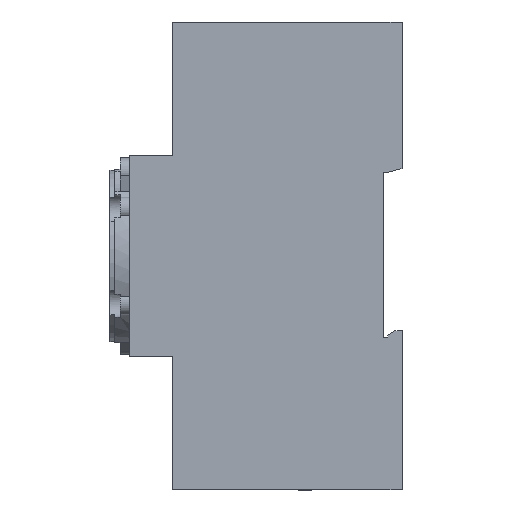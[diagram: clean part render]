
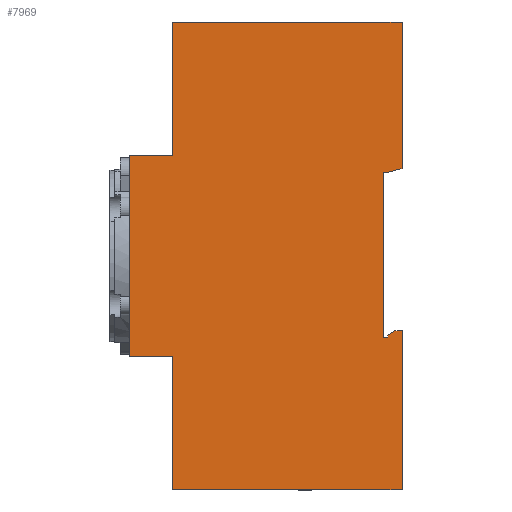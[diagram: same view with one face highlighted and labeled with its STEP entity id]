
A CAD part, left-side view. The second image highlights one B-rep face of the part: STEP entity #7969.
In plain terms, the highlighted planar face has unit normal (-1, 0, 0).
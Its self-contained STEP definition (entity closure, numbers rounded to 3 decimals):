
#82 = VECTOR ( 'NONE', #11902, 1000. ) ;
#211 = LINE ( 'NONE', #6879, #7646 ) ;
#352 = EDGE_CURVE ( 'NONE', #1647, #10855, #2578, .T. ) ;
#417 = EDGE_LOOP ( 'NONE', ( #5931, #10441, #3921, #9330, #1421, #2902, #3794, #11557, #8749, #11984, #8593, #6229, #9772, #4615, #8253, #2079, #11896 ) ) ;
#793 = VECTOR ( 'NONE', #5750, 1000. ) ;
#1166 = VECTOR ( 'NONE', #10931, 1000. ) ;
#1189 = EDGE_CURVE ( 'NONE', #8289, #1497, #12209, .T. ) ;
#1244 = EDGE_CURVE ( 'NONE', #2241, #6282, #3569, .T. ) ;
#1292 = CARTESIAN_POINT ( 'NONE',  ( -39., -25.8, 17.8 ) ) ;
#1374 = CARTESIAN_POINT ( 'NONE',  ( -39., 19.9, 21.5 ) ) ;
#1421 = ORIENTED_EDGE ( 'NONE', *, *, #1244, .T. ) ;
#1478 = CARTESIAN_POINT ( 'NONE',  ( -39., -29.1, 50. ) ) ;
#1497 = VERTEX_POINT ( 'NONE', #7018 ) ;
#1647 = VERTEX_POINT ( 'NONE', #6030 ) ;
#1762 = LINE ( 'NONE', #2618, #9596 ) ;
#2044 = EDGE_CURVE ( 'NONE', #11857, #2210, #1762, .T. ) ;
#2079 = ORIENTED_EDGE ( 'NONE', *, *, #4532, .T. ) ;
#2210 = VERTEX_POINT ( 'NONE', #1478 ) ;
#2241 = VERTEX_POINT ( 'NONE', #1374 ) ;
#2299 = VERTEX_POINT ( 'NONE', #1292 ) ;
#2471 = VECTOR ( 'NONE', #4699, 1000. ) ;
#2494 = VERTEX_POINT ( 'NONE', #10404 ) ;
#2542 = DIRECTION ( 'NONE',  ( 0., -1., 0. ) ) ;
#2578 = LINE ( 'NONE', #11757, #7947 ) ;
#2618 = CARTESIAN_POINT ( 'NONE',  ( -39., -29.1, 50. ) ) ;
#2730 = DIRECTION ( 'NONE',  ( 0., 0., 1. ) ) ;
#2741 = EDGE_CURVE ( 'NONE', #2299, #3095, #5648, .T. ) ;
#2831 = VECTOR ( 'NONE', #11268, 1000. ) ;
#2886 = EDGE_CURVE ( 'NONE', #3330, #3799, #8701, .T. ) ;
#2888 = EDGE_CURVE ( 'NONE', #8389, #2241, #6054, .T. ) ;
#2902 = ORIENTED_EDGE ( 'NONE', *, *, #9347, .T. ) ;
#2943 = EDGE_CURVE ( 'NONE', #7696, #8289, #4960, .T. ) ;
#2944 = VECTOR ( 'NONE', #4460, 1000. ) ;
#3066 = DIRECTION ( 'NONE',  ( 0., 1., 0. ) ) ;
#3095 = VERTEX_POINT ( 'NONE', #9952 ) ;
#3193 = CARTESIAN_POINT ( 'NONE',  ( -39., 0., 17.8 ) ) ;
#3239 = EDGE_CURVE ( 'NONE', #1497, #2494, #8896, .T. ) ;
#3330 = VERTEX_POINT ( 'NONE', #8420 ) ;
#3343 = VECTOR ( 'NONE', #9448, 1000. ) ;
#3569 = LINE ( 'NONE', #9083, #9374 ) ;
#3746 = EDGE_CURVE ( 'NONE', #3330, #2494, #11775, .T. ) ;
#3794 = ORIENTED_EDGE ( 'NONE', *, *, #7332, .T. ) ;
#3799 = VERTEX_POINT ( 'NONE', #4288 ) ;
#3921 = ORIENTED_EDGE ( 'NONE', *, *, #5693, .T. ) ;
#4227 = CARTESIAN_POINT ( 'NONE',  ( -39., 19.9, 50. ) ) ;
#4288 = CARTESIAN_POINT ( 'NONE',  ( -39., -29.1, -15.938 ) ) ;
#4460 = DIRECTION ( 'NONE',  ( 0., 1., 0. ) ) ;
#4465 = VERTEX_POINT ( 'NONE', #8124 ) ;
#4532 = EDGE_CURVE ( 'NONE', #7696, #3095, #5952, .T. ) ;
#4556 = LINE ( 'NONE', #11555, #82 ) ;
#4615 = ORIENTED_EDGE ( 'NONE', *, *, #1189, .F. ) ;
#4653 = LINE ( 'NONE', #9849, #8357 ) ;
#4656 = CARTESIAN_POINT ( 'NONE',  ( -39., -25.1, -17.51 ) ) ;
#4671 = CARTESIAN_POINT ( 'NONE',  ( -39., 29.1, 21.5 ) ) ;
#4699 = DIRECTION ( 'NONE',  ( 0., 0.814, -0.581 ) ) ;
#4757 = CARTESIAN_POINT ( 'NONE',  ( -39., -29.1, 18.684 ) ) ;
#4779 = EDGE_CURVE ( 'NONE', #2299, #11857, #4556, .T. ) ;
#4809 = CARTESIAN_POINT ( 'NONE',  ( -39., -26.1, -17.01 ) ) ;
#4817 = AXIS2_PLACEMENT_3D ( 'NONE', #6787, #6522, #6482 ) ;
#4960 = LINE ( 'NONE', #10984, #1166 ) ;
#5174 = LINE ( 'NONE', #4227, #2944 ) ;
#5352 = EDGE_CURVE ( 'NONE', #10855, #4465, #9937, .T. ) ;
#5410 = CARTESIAN_POINT ( 'NONE',  ( -39., -29.1, 50. ) ) ;
#5648 = LINE ( 'NONE', #3193, #5663 ) ;
#5663 = VECTOR ( 'NONE', #3066, 1000. ) ;
#5693 = EDGE_CURVE ( 'NONE', #2210, #8389, #5174, .T. ) ;
#5750 = DIRECTION ( 'NONE',  ( 0., 0., 1. ) ) ;
#5931 = ORIENTED_EDGE ( 'NONE', *, *, #4779, .T. ) ;
#5952 = LINE ( 'NONE', #9288, #8670 ) ;
#6030 = CARTESIAN_POINT ( 'NONE',  ( -39., 19.9, -21.5 ) ) ;
#6054 = LINE ( 'NONE', #11439, #8062 ) ;
#6229 = ORIENTED_EDGE ( 'NONE', *, *, #3746, .T. ) ;
#6282 = VERTEX_POINT ( 'NONE', #4671 ) ;
#6482 = DIRECTION ( 'NONE',  ( 0., 0., -1. ) ) ;
#6522 = DIRECTION ( 'NONE',  ( 1., 0., 0. ) ) ;
#6703 = PLANE ( 'NONE',  #4817 ) ;
#6787 = CARTESIAN_POINT ( 'NONE',  ( -39., 0., 0. ) ) ;
#6879 = CARTESIAN_POINT ( 'NONE',  ( -39., 29.1, -21.5 ) ) ;
#6885 = VECTOR ( 'NONE', #11598, 1000. ) ;
#7018 = CARTESIAN_POINT ( 'NONE',  ( -39., -26.1, -17.41 ) ) ;
#7332 = EDGE_CURVE ( 'NONE', #9158, #1647, #211, .T. ) ;
#7646 = VECTOR ( 'NONE', #2542, 1000. ) ;
#7696 = VERTEX_POINT ( 'NONE', #4656 ) ;
#7715 = CARTESIAN_POINT ( 'NONE',  ( -39., 19.9, 50. ) ) ;
#7770 = CARTESIAN_POINT ( 'NONE',  ( -39., 19.9, -50. ) ) ;
#7947 = VECTOR ( 'NONE', #11697, 1000. ) ;
#7969 = ADVANCED_FACE ( 'NONE', ( #8755 ), #6703, .F. ) ;
#8062 = VECTOR ( 'NONE', #11416, 1000. ) ;
#8124 = CARTESIAN_POINT ( 'NONE',  ( -39., -29.1, -50. ) ) ;
#8222 = VECTOR ( 'NONE', #9207, 1000. ) ;
#8253 = ORIENTED_EDGE ( 'NONE', *, *, #2943, .F. ) ;
#8289 = VERTEX_POINT ( 'NONE', #8818 ) ;
#8357 = VECTOR ( 'NONE', #9783, 1000. ) ;
#8389 = VERTEX_POINT ( 'NONE', #7715 ) ;
#8420 = CARTESIAN_POINT ( 'NONE',  ( -39., -27.6, -15.938 ) ) ;
#8593 = ORIENTED_EDGE ( 'NONE', *, *, #2886, .F. ) ;
#8670 = VECTOR ( 'NONE', #9299, 1000. ) ;
#8701 = LINE ( 'NONE', #11514, #6885 ) ;
#8749 = ORIENTED_EDGE ( 'NONE', *, *, #5352, .T. ) ;
#8755 = FACE_OUTER_BOUND ( 'NONE', #417, .T. ) ;
#8818 = CARTESIAN_POINT ( 'NONE',  ( -39., -26., -17.51 ) ) ;
#8896 = LINE ( 'NONE', #9317, #8222 ) ;
#9036 = DIRECTION ( 'NONE',  ( 0., 1., 0. ) ) ;
#9083 = CARTESIAN_POINT ( 'NONE',  ( -39., 29.1, 21.5 ) ) ;
#9158 = VERTEX_POINT ( 'NONE', #10880 ) ;
#9207 = DIRECTION ( 'NONE',  ( 0., 0., 1. ) ) ;
#9288 = CARTESIAN_POINT ( 'NONE',  ( -39., -25.1, 17.8 ) ) ;
#9299 = DIRECTION ( 'NONE',  ( 0., 0., 1. ) ) ;
#9317 = CARTESIAN_POINT ( 'NONE',  ( -39., -26.1, 0. ) ) ;
#9330 = ORIENTED_EDGE ( 'NONE', *, *, #2888, .T. ) ;
#9347 = EDGE_CURVE ( 'NONE', #6282, #9158, #4653, .T. ) ;
#9374 = VECTOR ( 'NONE', #9036, 1000. ) ;
#9448 = DIRECTION ( 'NONE',  ( 0., -0.707, 0.707 ) ) ;
#9457 = CARTESIAN_POINT ( 'NONE',  ( -39., -26., -17.51 ) ) ;
#9596 = VECTOR ( 'NONE', #2730, 1000. ) ;
#9772 = ORIENTED_EDGE ( 'NONE', *, *, #3239, .F. ) ;
#9783 = DIRECTION ( 'NONE',  ( 0., 0., -1. ) ) ;
#9849 = CARTESIAN_POINT ( 'NONE',  ( -39., 29.1, 21.5 ) ) ;
#9937 = LINE ( 'NONE', #9983, #2831 ) ;
#9952 = CARTESIAN_POINT ( 'NONE',  ( -39., -25.1, 17.8 ) ) ;
#9983 = CARTESIAN_POINT ( 'NONE',  ( -39., 19.9, -50. ) ) ;
#10358 = LINE ( 'NONE', #5410, #793 ) ;
#10404 = CARTESIAN_POINT ( 'NONE',  ( -39., -26.1, -17.01 ) ) ;
#10441 = ORIENTED_EDGE ( 'NONE', *, *, #2044, .T. ) ;
#10855 = VERTEX_POINT ( 'NONE', #7770 ) ;
#10880 = CARTESIAN_POINT ( 'NONE',  ( -39., 29.1, -21.5 ) ) ;
#10931 = DIRECTION ( 'NONE',  ( 0., -1., 0. ) ) ;
#10984 = CARTESIAN_POINT ( 'NONE',  ( -39., 0., -17.51 ) ) ;
#11087 = EDGE_CURVE ( 'NONE', #4465, #3799, #10358, .T. ) ;
#11268 = DIRECTION ( 'NONE',  ( 0., -1., 0. ) ) ;
#11416 = DIRECTION ( 'NONE',  ( 0., 0., -1. ) ) ;
#11439 = CARTESIAN_POINT ( 'NONE',  ( -39., 19.9, 21.5 ) ) ;
#11514 = CARTESIAN_POINT ( 'NONE',  ( -39., 0., -15.938 ) ) ;
#11555 = CARTESIAN_POINT ( 'NONE',  ( -39., -29.1, 18.684 ) ) ;
#11557 = ORIENTED_EDGE ( 'NONE', *, *, #352, .T. ) ;
#11598 = DIRECTION ( 'NONE',  ( 0., -1., 0. ) ) ;
#11697 = DIRECTION ( 'NONE',  ( 0., 0., -1. ) ) ;
#11757 = CARTESIAN_POINT ( 'NONE',  ( -39., 19.9, -50. ) ) ;
#11775 = LINE ( 'NONE', #4809, #2471 ) ;
#11857 = VERTEX_POINT ( 'NONE', #4757 ) ;
#11896 = ORIENTED_EDGE ( 'NONE', *, *, #2741, .F. ) ;
#11902 = DIRECTION ( 'NONE',  ( 0., -0.966, 0.259 ) ) ;
#11984 = ORIENTED_EDGE ( 'NONE', *, *, #11087, .T. ) ;
#12209 = LINE ( 'NONE', #9457, #3343 ) ;
